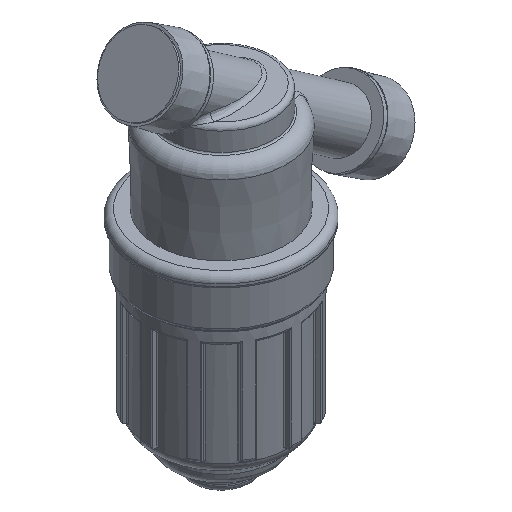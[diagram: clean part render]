
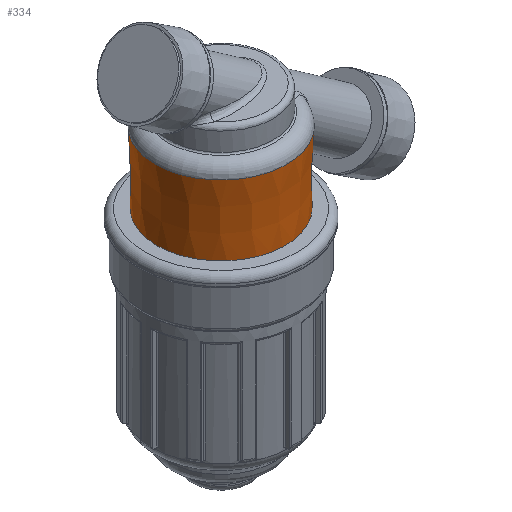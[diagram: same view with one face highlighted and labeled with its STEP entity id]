
A CAD part, isometric view. The second image highlights one B-rep face of the part: STEP entity #334.
In plain terms, the highlighted conical face has half-angle 1.198 degrees and reference radius 28.564 mm.
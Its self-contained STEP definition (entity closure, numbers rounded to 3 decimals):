
#334 = ADVANCED_FACE( '', ( #778, #779 ), #780, .T. );
#778 = FACE_OUTER_BOUND( '', #2585, .T. );
#779 = FACE_BOUND( '', #2586, .T. );
#780 = CONICAL_SURFACE( '', #2587, 28.564, 0.021 );
#2585 = EDGE_LOOP( '', ( #5454, #5455 ) );
#2586 = EDGE_LOOP( '', ( #5456 ) );
#2587 = AXIS2_PLACEMENT_3D( '', #5457, #5458, #5459 );
#5454 = ORIENTED_EDGE( '', *, *, #6689, .T. );
#5455 = ORIENTED_EDGE( '', *, *, #6690, .T. );
#5456 = ORIENTED_EDGE( '', *, *, #6691, .F. );
#5457 = CARTESIAN_POINT( '', ( 0., 0., 56.82 ) );
#5458 = DIRECTION( '', ( 0., 0., 1. ) );
#5459 = DIRECTION( '', ( 1., 0., 0. ) );
#6689 = EDGE_CURVE( '', #6932, #7380, #7516, .T. );
#6690 = EDGE_CURVE( '', #7380, #6932, #7517, .T. );
#6691 = EDGE_CURVE( '', #7518, #7518, #7519, .T. );
#6932 = VERTEX_POINT( '', #7829 );
#7380 = VERTEX_POINT( '', #8959 );
#7516 = CIRCLE( '', #9284, 28.564 );
#7517 = B_SPLINE_CURVE_WITH_KNOTS( '', 3, ( #9285, #9286, #9287, #9288, #9289, #9290, #9291, #9292, #9293, #9294, #9295, #9296, #9297, #9298, #9299, #9300, #9301, #9302, #9303, #9304, #9305, #9306, #9307, #9308, #9309, #9310, #9311, #9312, #9313, #9314, #9315, #9316, #9317, #9318, #9319, #9320, #9321, #9322, #9323, #9324, #9325, #9326, #9327, #9328, #9329, #9330 ), .UNSPECIFIED., .F., .F., ( 4, 1, 1, 1, 1, 1, 1, 1, 1, 1, 1, 1, 1, 1, 1, 1, 1, 1, 1, 1, 1, 1, 1, 1, 1, 1, 1, 1, 1, 1, 1, 1, 1, 1, 1, 1, 1, 1, 1, 1, 1, 1, 1, 4 ), ( 0., 0.006, 0.012, 0.018, 0.025, 0.031, 0.037, 0.043, 0.05, 0.056, 0.062, 0.093, 0.125, 0.156, 0.187, 0.218, 0.25, 0.312, 0.344, 0.375, 0.407, 0.437, 0.469, 0.5, 0.5, 0.531, 0.563, 0.593, 0.625, 0.656, 0.688, 0.75, 0.781, 0.812, 0.844, 0.875, 0.907, 0.937, 0.948, 0.959, 0.969, 0.979, 0.99, 1. ), .UNSPECIFIED. );
#7518 = VERTEX_POINT( '', #9331 );
#7519 = CIRCLE( '', #9332, 27.919 );
#7829 = CARTESIAN_POINT( '', ( 26.025, -11.772, 56.82 ) );
#8959 = CARTESIAN_POINT( '', ( 26.025, 11.772, 56.82 ) );
#9284 = AXIS2_PLACEMENT_3D( '', #10447, #10448, #10449 );
#9285 = CARTESIAN_POINT( '', ( 26.025, 11.772, 56.82 ) );
#9286 = CARTESIAN_POINT( '', ( 26.002, 11.818, 56.701 ) );
#9287 = CARTESIAN_POINT( '', ( 25.955, 11.909, 56.463 ) );
#9288 = CARTESIAN_POINT( '', ( 25.888, 12.035, 56.101 ) );
#9289 = CARTESIAN_POINT( '', ( 25.825, 12.152, 55.734 ) );
#9290 = CARTESIAN_POINT( '', ( 25.765, 12.261, 55.363 ) );
#9291 = CARTESIAN_POINT( '', ( 25.708, 12.361, 54.986 ) );
#9292 = CARTESIAN_POINT( '', ( 25.655, 12.452, 54.604 ) );
#9293 = CARTESIAN_POINT( '', ( 25.606, 12.534, 54.218 ) );
#9294 = CARTESIAN_POINT( '', ( 25.561, 12.609, 53.826 ) );
#9295 = CARTESIAN_POINT( '', ( 25.519, 12.674, 53.43 ) );
#9296 = CARTESIAN_POINT( '', ( 25.433, 12.803, 52.523 ) );
#9297 = CARTESIAN_POINT( '', ( 25.341, 12.917, 51.069 ) );
#9298 = CARTESIAN_POINT( '', ( 25.314, 12.879, 49.094 ) );
#9299 = CARTESIAN_POINT( '', ( 25.374, 12.67, 47.115 ) );
#9300 = CARTESIAN_POINT( '', ( 25.509, 12.304, 45.177 ) );
#9301 = CARTESIAN_POINT( '', ( 25.708, 11.789, 43.267 ) );
#9302 = CARTESIAN_POINT( '', ( 26.043, 10.912, 40.798 ) );
#9303 = CARTESIAN_POINT( '', ( 26.46, 9.741, 38.431 ) );
#9304 = CARTESIAN_POINT( '', ( 26.902, 8.265, 36.283 ) );
#9305 = CARTESIAN_POINT( '', ( 27.238, 6.967, 34.784 ) );
#9306 = CARTESIAN_POINT( '', ( 27.546, 5.509, 33.489 ) );
#9307 = CARTESIAN_POINT( '', ( 27.811, 3.821, 32.428 ) );
#9308 = CARTESIAN_POINT( '', ( 27.992, 1.979, 31.725 ) );
#9309 = CARTESIAN_POINT( '', ( 28.036, 0.648, 31.56 ) );
#9310 = CARTESIAN_POINT( '', ( 28.036, -0.648, 31.56 ) );
#9311 = CARTESIAN_POINT( '', ( 27.992, -1.977, 31.724 ) );
#9312 = CARTESIAN_POINT( '', ( 27.812, -3.817, 32.426 ) );
#9313 = CARTESIAN_POINT( '', ( 27.547, -5.503, 33.485 ) );
#9314 = CARTESIAN_POINT( '', ( 27.239, -6.961, 34.778 ) );
#9315 = CARTESIAN_POINT( '', ( 26.904, -8.259, 36.276 ) );
#9316 = CARTESIAN_POINT( '', ( 26.462, -9.736, 38.423 ) );
#9317 = CARTESIAN_POINT( '', ( 26.045, -10.907, 40.787 ) );
#9318 = CARTESIAN_POINT( '', ( 25.71, -11.784, 43.252 ) );
#9319 = CARTESIAN_POINT( '', ( 25.511, -12.3, 45.161 ) );
#9320 = CARTESIAN_POINT( '', ( 25.375, -12.668, 47.102 ) );
#9321 = CARTESIAN_POINT( '', ( 25.315, -12.878, 49.083 ) );
#9322 = CARTESIAN_POINT( '', ( 25.341, -12.917, 51.056 ) );
#9323 = CARTESIAN_POINT( '', ( 25.438, -12.798, 52.595 ) );
#9324 = CARTESIAN_POINT( '', ( 25.543, -12.637, 53.677 ) );
#9325 = CARTESIAN_POINT( '', ( 25.619, -12.514, 54.333 ) );
#9326 = CARTESIAN_POINT( '', ( 25.706, -12.366, 54.976 ) );
#9327 = CARTESIAN_POINT( '', ( 25.802, -12.194, 55.605 ) );
#9328 = CARTESIAN_POINT( '', ( 25.908, -11.999, 56.22 ) );
#9329 = CARTESIAN_POINT( '', ( 25.986, -11.848, 56.62 ) );
#9330 = CARTESIAN_POINT( '', ( 26.025, -11.772, 56.82 ) );
#9331 = CARTESIAN_POINT( '', ( -27.919, 0., 26. ) );
#9332 = AXIS2_PLACEMENT_3D( '', #10450, #10451, #10452 );
#10447 = CARTESIAN_POINT( '', ( 0., 0., 56.82 ) );
#10448 = DIRECTION( '', ( 0., 0., -1. ) );
#10449 = DIRECTION( '', ( -1., 0., 0. ) );
#10450 = CARTESIAN_POINT( '', ( 0., 0., 26. ) );
#10451 = DIRECTION( '', ( 0., 0., -1. ) );
#10452 = DIRECTION( '', ( -1., 0., 0. ) );
